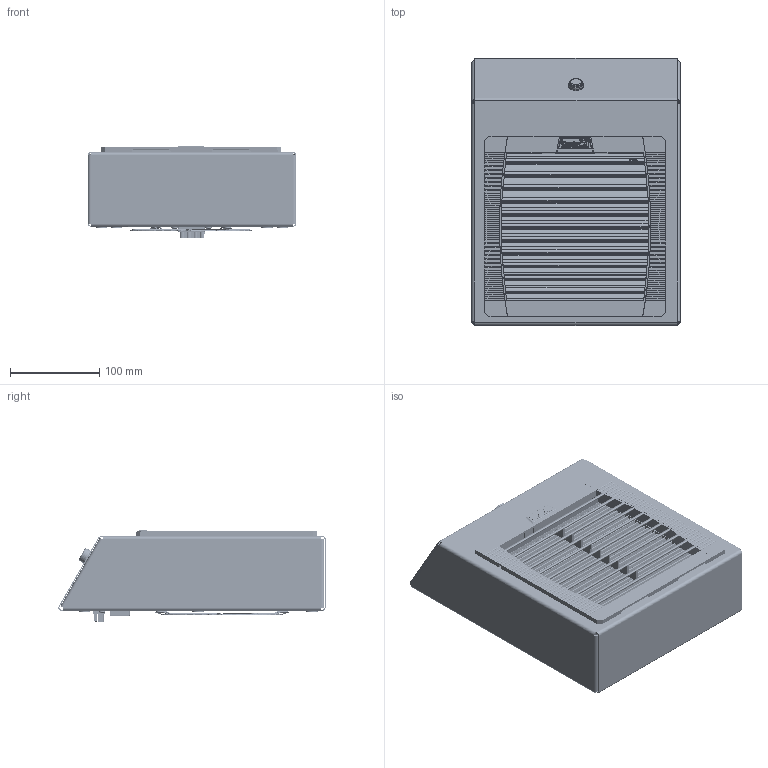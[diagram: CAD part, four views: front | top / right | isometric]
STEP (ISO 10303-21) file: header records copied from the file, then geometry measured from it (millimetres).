
FILE_DESCRIPTION (( 'STEP AP203' ), '1' );
FILE_NAME ('DPF 33000 SL.STEP', '2020-09-02T15:32:35', ( '' ), ( '' ), 'SwSTEP 2.0', 'SolidWorks 2018', '' );
FILE_SCHEMA (( 'CONFIG_CONTROL_DESIGN' ));
Length unit declared in the file: millimetre
Products named in the file (1): DPF 33000 SL
Bounding box: 234 x 300.04 x 102.65 mm (x, y, z)
Volume: 822690.6 mm3; surface area: 988199.4 mm2
Topology: 40 solids, 40 shells, 7383 faces, 20327 edges, 12878 vertices
Faces by surface type: plane 3894, bspline 1661, cylinder 1416, torus 220, cone 140, sphere 52
Entity records: 321077 total; most frequent: CARTESIAN_POINT 148563, ORIENTED_EDGE 39902, DIRECTION 29285, EDGE_CURVE 19951, VERTEX_POINT 12864, LINE 12159, VECTOR 12159, AXIS2_PLACEMENT_3D 8563
